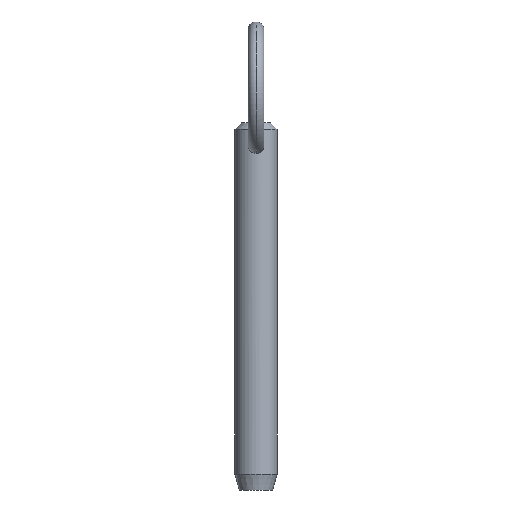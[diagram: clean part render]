
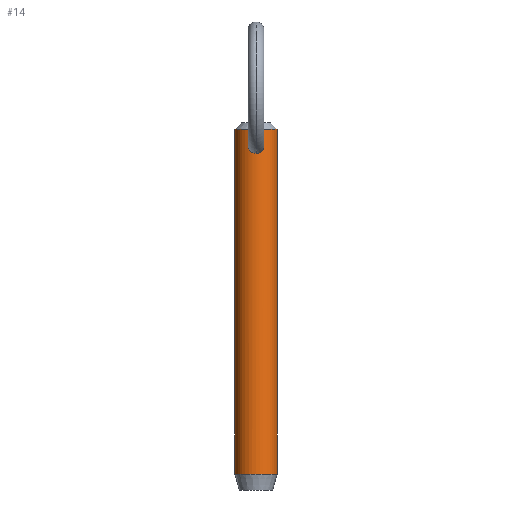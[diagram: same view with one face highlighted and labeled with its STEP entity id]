
A CAD part, front view. The second image highlights one B-rep face of the part: STEP entity #14.
In plain terms, the highlighted cylindrical face has radius 3.965 mm (diameter 7.93 mm), a partial arc.
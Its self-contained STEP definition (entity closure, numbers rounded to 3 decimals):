
#10 = VERTEX_POINT ( 'NONE', #266 ) ;
#13 = EDGE_CURVE ( 'NONE', #10, #319, #250, .T. ) ;
#14 = ADVANCED_FACE ( 'NONE', ( #454, #253 ), #292, .T. ) ;
#30 = CARTESIAN_POINT ( 'NONE',  ( -0.925, -3.858, 56.768 ) ) ;
#40 = CARTESIAN_POINT ( 'NONE',  ( 1.291, -3.75, 56.283 ) ) ;
#44 = DIRECTION ( 'NONE',  ( 0., 0., -1. ) ) ;
#45 = ORIENTED_EDGE ( 'NONE', *, *, #115, .T. ) ;
#55 = VERTEX_POINT ( 'NONE', #100 ) ;
#62 = CARTESIAN_POINT ( 'NONE',  ( -1.186, -3.786, 56.46 ) ) ;
#66 = CARTESIAN_POINT ( 'NONE',  ( -0.102, -3.965, 57.147 ) ) ;
#69 = CARTESIAN_POINT ( 'NONE',  ( -1.48, -3.679, 55.089 ) ) ;
#71 = VECTOR ( 'NONE', #365, 1000. ) ;
#76 = CARTESIAN_POINT ( 'NONE',  ( 0.404, -3.946, 57.082 ) ) ;
#77 = CARTESIAN_POINT ( 'NONE',  ( 0.693, -3.905, 54.09 ) ) ;
#81 = CARTESIAN_POINT ( 'NONE',  ( 1.028, -3.83, 54.315 ) ) ;
#82 = CARTESIAN_POINT ( 'NONE',  ( 3.965, 0., 53.3 ) ) ;
#92 = DIRECTION ( 'NONE',  ( -1., 0., 0. ) ) ;
#97 = CARTESIAN_POINT ( 'NONE',  ( 0., 0., -6.52 ) ) ;
#100 = CARTESIAN_POINT ( 'NONE',  ( 3.965, 0., -6.52 ) ) ;
#103 = CARTESIAN_POINT ( 'NONE',  ( -0.498, -3.935, 57.044 ) ) ;
#111 = CARTESIAN_POINT ( 'NONE',  ( 0.77, -3.894, 56.9 ) ) ;
#113 = CARTESIAN_POINT ( 'NONE',  ( 0.782, -3.888, 54.137 ) ) ;
#114 = CARTESIAN_POINT ( 'NONE',  ( 0., 0., 58.45 ) ) ;
#115 = EDGE_CURVE ( 'NONE', #319, #10, #290, .T. ) ;
#116 = CARTESIAN_POINT ( 'NONE',  ( 0.409, -3.948, 53.974 ) ) ;
#138 = CARTESIAN_POINT ( 'NONE',  ( -0.957, -3.85, 54.241 ) ) ;
#139 = CIRCLE ( 'NONE', #190, 3.965 ) ;
#140 = ORIENTED_EDGE ( 'NONE', *, *, #246, .F. ) ;
#144 = CARTESIAN_POINT ( 'NONE',  ( -0.41, -3.948, 53.974 ) ) ;
#145 = CARTESIAN_POINT ( 'NONE',  ( -0.403, -3.946, 57.082 ) ) ;
#155 = CARTESIAN_POINT ( 'NONE',  ( 1.471, -3.682, 55.094 ) ) ;
#156 = CARTESIAN_POINT ( 'NONE',  ( 0.205, -3.961, 57.134 ) ) ;
#157 = CIRCLE ( 'NONE', #282, 3.965 ) ;
#160 = CARTESIAN_POINT ( 'NONE',  ( 1.479, -3.679, 55.707 ) ) ;
#167 = ORIENTED_EDGE ( 'NONE', *, *, #174, .T. ) ;
#170 = CARTESIAN_POINT ( 'NONE',  ( -3.965, 0., -6.52 ) ) ;
#174 = EDGE_CURVE ( 'NONE', #493, #55, #157, .T. ) ;
#182 = DIRECTION ( 'NONE',  ( 0., 0., 1. ) ) ;
#187 = CARTESIAN_POINT ( 'NONE',  ( -1.29, -3.75, 56.285 ) ) ;
#190 = AXIS2_PLACEMENT_3D ( 'NONE', #114, #44, #204 ) ;
#192 = CARTESIAN_POINT ( 'NONE',  ( -0.205, -3.965, 53.935 ) ) ;
#194 = CARTESIAN_POINT ( 'NONE',  ( 0., -3.965, 53.935 ) ) ;
#195 = CARTESIAN_POINT ( 'NONE',  ( 1.404, -3.708, 56.001 ) ) ;
#198 = CARTESIAN_POINT ( 'NONE',  ( 1.499, -3.671, 55.297 ) ) ;
#204 = DIRECTION ( 'NONE',  ( 1., 0., 0. ) ) ;
#205 = DIRECTION ( 'NONE',  ( 0., 0., -1. ) ) ;
#211 = AXIS2_PLACEMENT_3D ( 'NONE', #344, #340, #382 ) ;
#216 = LINE ( 'NONE', #82, #343 ) ;
#219 = CARTESIAN_POINT ( 'NONE',  ( -1.508, -3.667, 55.297 ) ) ;
#221 = ORIENTED_EDGE ( 'NONE', *, *, #444, .T. ) ;
#225 = CARTESIAN_POINT ( 'NONE',  ( -1.441, -3.695, 55.908 ) ) ;
#232 = CARTESIAN_POINT ( 'NONE',  ( 1.434, -3.697, 55.905 ) ) ;
#238 = CARTESIAN_POINT ( 'NONE',  ( 0., -3.965, 57.147 ) ) ;
#243 = CARTESIAN_POINT ( 'NONE',  ( -3.965, 0., 53.3 ) ) ;
#246 = EDGE_CURVE ( 'NONE', #419, #55, #216, .T. ) ;
#250 = B_SPLINE_CURVE_WITH_KNOTS ( 'NONE', 3,
 ( #388, #192, #144, #385, #138, #426, #462, #422, #347, #69, #219, #269, #225, #187, #62, #30, #429, #103, #145, #263, #66, #457 ),
 .UNSPECIFIED., .F., .F.,
 ( 4, 2, 2, 2, 2, 2, 2, 2, 2, 2, 4 ),
 ( 0.009, 0.01, 0.01, 0.011, 0.011, 0.012, 0.012, 0.013, 0.013, 0.014, 0.014 ),
 .UNSPECIFIED. ) ;
#253 = FACE_BOUND ( 'NONE', #425, .T. ) ;
#255 = ORIENTED_EDGE ( 'NONE', *, *, #13, .T. ) ;
#263 = CARTESIAN_POINT ( 'NONE',  ( -0.206, -3.961, 57.134 ) ) ;
#266 = CARTESIAN_POINT ( 'NONE',  ( 0., -3.965, 53.935 ) ) ;
#269 = CARTESIAN_POINT ( 'NONE',  ( -1.488, -3.675, 55.705 ) ) ;
#274 = CARTESIAN_POINT ( 'NONE',  ( 1.503, -3.669, 55.399 ) ) ;
#275 = CARTESIAN_POINT ( 'NONE',  ( 0., -3.965, 57.147 ) ) ;
#279 = EDGE_CURVE ( 'NONE', #419, #415, #139, .T. ) ;
#280 = CARTESIAN_POINT ( 'NONE',  ( 1.237, -3.77, 54.531 ) ) ;
#282 = AXIS2_PLACEMENT_3D ( 'NONE', #97, #182, #92 ) ;
#290 = B_SPLINE_CURVE_WITH_KNOTS ( 'NONE', 3,
 ( #275, #324, #156, #76, #431, #111, #322, #396, #40, #195, #232, #160, #357, #274, #198, #155, #312, #465, #280, #81, #504, #113, #77, #116, #359, #194 ),
 .UNSPECIFIED., .F., .F.,
 ( 4, 2, 2, 2, 2, 2, 2, 2, 2, 2, 2, 2, 4 ),
 ( 0.004, 0.005, 0.005, 0.005, 0.006, 0.006, 0.007, 0.007, 0.007, 0.008, 0.008, 0.008, 0.009 ),
 .UNSPECIFIED. ) ;
#292 = CYLINDRICAL_SURFACE ( 'NONE', #211, 3.965 ) ;
#312 = CARTESIAN_POINT ( 'NONE',  ( 1.447, -3.692, 54.993 ) ) ;
#319 = VERTEX_POINT ( 'NONE', #238 ) ;
#322 = CARTESIAN_POINT ( 'NONE',  ( 0.925, -3.858, 56.768 ) ) ;
#324 = CARTESIAN_POINT ( 'NONE',  ( 0.102, -3.965, 57.147 ) ) ;
#340 = DIRECTION ( 'NONE',  ( 0., 0., -1. ) ) ;
#343 = VECTOR ( 'NONE', #205, 1000. ) ;
#344 = CARTESIAN_POINT ( 'NONE',  ( 0., 0., 53.3 ) ) ;
#347 = CARTESIAN_POINT ( 'NONE',  ( -1.379, -3.718, 54.803 ) ) ;
#357 = CARTESIAN_POINT ( 'NONE',  ( 1.493, -3.673, 55.604 ) ) ;
#359 = CARTESIAN_POINT ( 'NONE',  ( 0.205, -3.965, 53.935 ) ) ;
#365 = DIRECTION ( 'NONE',  ( 0., 0., -1. ) ) ;
#382 = DIRECTION ( 'NONE',  ( -1., 0., 0. ) ) ;
#385 = CARTESIAN_POINT ( 'NONE',  ( -0.788, -3.891, 54.128 ) ) ;
#388 = CARTESIAN_POINT ( 'NONE',  ( 0., -3.965, 53.935 ) ) ;
#396 = CARTESIAN_POINT ( 'NONE',  ( 1.186, -3.786, 56.459 ) ) ;
#407 = LINE ( 'NONE', #243, #71 ) ;
#415 = VERTEX_POINT ( 'NONE', #480 ) ;
#419 = VERTEX_POINT ( 'NONE', #445 ) ;
#422 = CARTESIAN_POINT ( 'NONE',  ( -1.335, -3.734, 54.71 ) ) ;
#425 = EDGE_LOOP ( 'NONE', ( #45, #255 ) ) ;
#426 = CARTESIAN_POINT ( 'NONE',  ( -1.168, -3.79, 54.459 ) ) ;
#429 = CARTESIAN_POINT ( 'NONE',  ( -0.77, -3.894, 56.9 ) ) ;
#431 = CARTESIAN_POINT ( 'NONE',  ( 0.498, -3.935, 57.044 ) ) ;
#444 = EDGE_CURVE ( 'NONE', #415, #493, #407, .T. ) ;
#445 = CARTESIAN_POINT ( 'NONE',  ( 3.965, 0., 58.45 ) ) ;
#452 = ORIENTED_EDGE ( 'NONE', *, *, #279, .T. ) ;
#454 = FACE_OUTER_BOUND ( 'NONE', #458, .T. ) ;
#457 = CARTESIAN_POINT ( 'NONE',  ( 0., -3.965, 57.147 ) ) ;
#458 = EDGE_LOOP ( 'NONE', ( #140, #452, #221, #167 ) ) ;
#462 = CARTESIAN_POINT ( 'NONE',  ( -1.229, -3.77, 54.539 ) ) ;
#465 = CARTESIAN_POINT ( 'NONE',  ( 1.346, -3.73, 54.708 ) ) ;
#480 = CARTESIAN_POINT ( 'NONE',  ( -3.965, 0., 58.45 ) ) ;
#493 = VERTEX_POINT ( 'NONE', #170 ) ;
#504 = CARTESIAN_POINT ( 'NONE',  ( 0.949, -3.851, 54.249 ) ) ;
